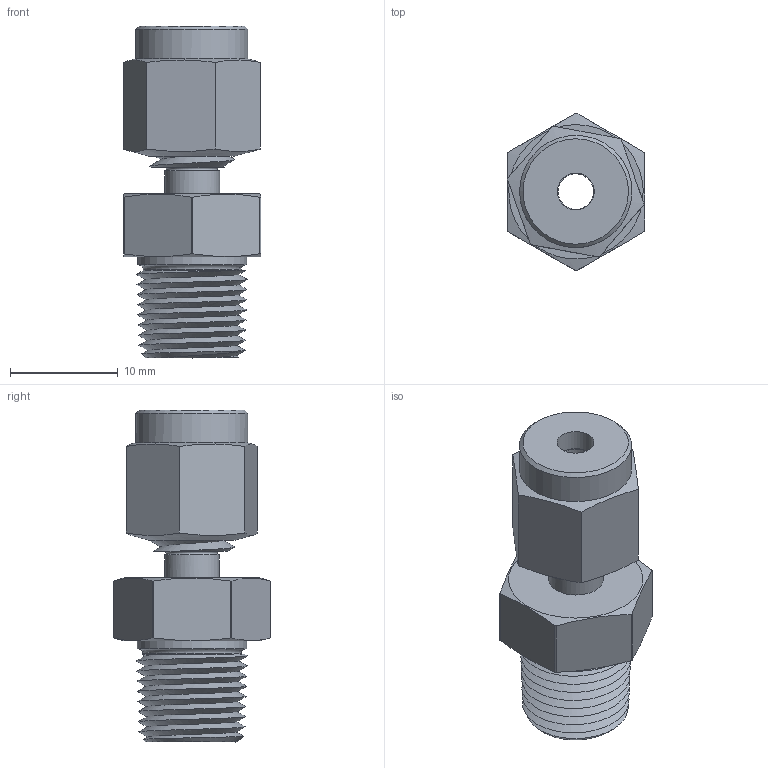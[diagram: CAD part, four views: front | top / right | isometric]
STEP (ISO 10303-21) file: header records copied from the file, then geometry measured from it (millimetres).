
FILE_DESCRIPTION(/* description */ (''),/* implementation_level */ '2;1');
FILE_NAME(/* name */ 'C:\Users\JN\Documents\CAD Drawings\The Sensor Connection\3D\CF\CF-0250-18-NPT\3D\CF-125-18-NPT.stp',/* time_stamp */ '2017-11-01T11:04:33-04:00',/* author */ ('JN'),/* organization */ (''),/* preprocessor_version */ 'ST-DEVELOPER v15.6',/* originating_system */ 'Autodesk Inventor 2015',/* authorisation */ '');
FILE_SCHEMA (('AUTOMOTIVE_DESIGN { 1 0 10303 214 3 1 1 }'));
Length unit declared in the file: inch
Products named in the file (5): CF-0125-18-NPT Threaded Body; CF-0125-NPT Bottom Ferrule; CF-0125-NPT Cap; CF-0125-NPT Top Ferrule; CF-125-18-NPT
Assembly tree (4 placements, depth 2):
  CF-125-18-NPT
    CF-0125-18-NPT Threaded Body
    CF-0125-NPT Bottom Ferrule
    CF-0125-NPT Cap
    CF-0125-NPT Top Ferrule
Bounding box: 12.74 x 14.62 x 30.8 mm (x, y, z)
Volume: 2331 mm3; surface area: 2785.6 mm2
Topology: 4 solids, 4 shells, 78 faces, 175 edges, 113 vertices
Faces by surface type: plane 34, cylinder 21, cone 12, bspline 7, torus 4
Full cylindrical faces by diameter (mm): 3.302 x1, 3.429 x3, 4.343 x1, 4.572 x1, 5.08 x1, 5.715 x1, 5.931 x1, 6.947 x1, 8.341 x1, 9.112 x1, 10.16 x1, 10.414 x1
Entity records: 5006 total; most frequent: CARTESIAN_POINT 3400, DIRECTION 300, ORIENTED_EDGE 276, AXIS2_PLACEMENT_3D 140, EDGE_CURVE 138, EDGE_LOOP 120, VERTEX_POINT 103, FACE_OUTER_BOUND 77
